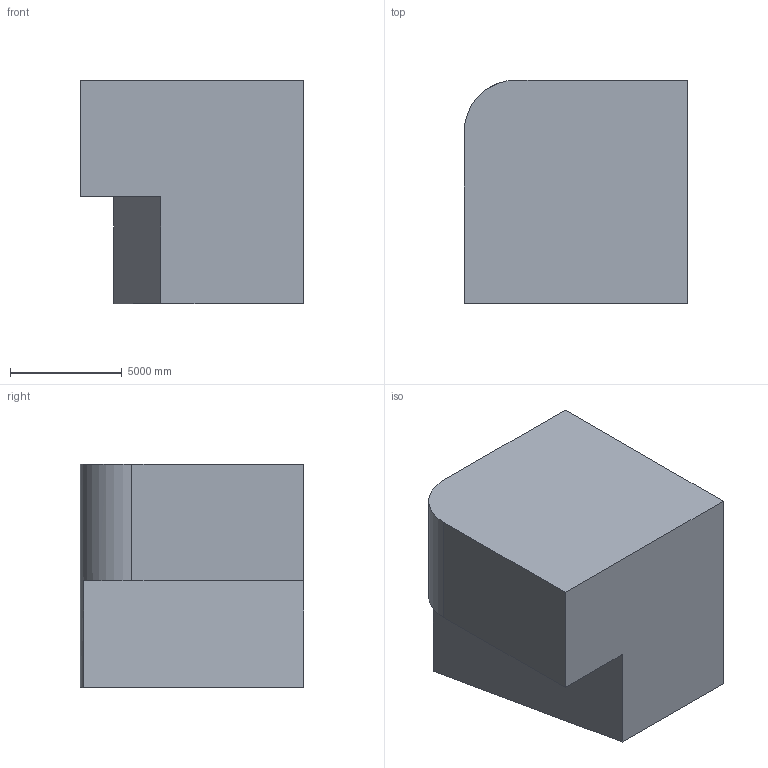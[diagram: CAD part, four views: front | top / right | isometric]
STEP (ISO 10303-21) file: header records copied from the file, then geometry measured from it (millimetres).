
FILE_DESCRIPTION (( 'STEP AP203' ), '1' );
FILE_NAME ('241.STEP', '2022-09-07T12:24:30', ( 'user' ), ( '' ), 'SwSTEP 2.0', 'SolidWorks 2021', '' );
FILE_SCHEMA (( 'CONFIG_CONTROL_DESIGN' ));
Length unit declared in the file: centimetre
Products named in the file (1): 241
Bounding box: 10000 x 10000 x 10000 mm (x, y, z)
Volume: 846735870824.2 mm3; surface area: 603265580.7 mm2
Topology: 1 solids, 1 shells, 14 faces, 36 edges, 24 vertices
Faces by surface type: plane 11, cylinder 3
Entity records: 504 total; most frequent: CARTESIAN_POINT 75, DIRECTION 73, ORIENTED_EDGE 72, EDGE_CURVE 36, VECTOR 29, LINE 29, VERTEX_POINT 24, AXIS2_PLACEMENT_3D 22
